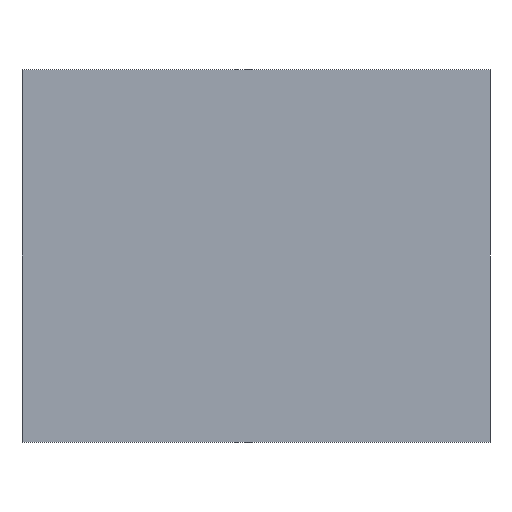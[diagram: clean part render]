
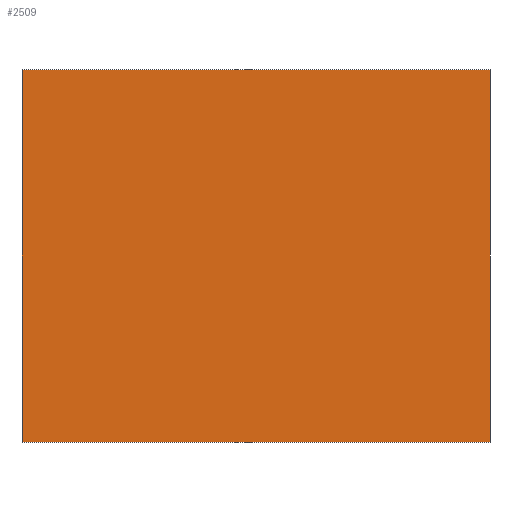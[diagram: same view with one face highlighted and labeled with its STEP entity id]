
A CAD part, front view. The second image highlights one B-rep face of the part: STEP entity #2509.
In plain terms, the highlighted planar face has unit normal (0, -1, 0).
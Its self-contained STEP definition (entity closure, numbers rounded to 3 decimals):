
#80 = CARTESIAN_POINT ( 'NONE',  ( 138.042, -39.587, -109.5 ) ) ;
#383 = DIRECTION ( 'NONE',  ( 0., 0., -1. ) ) ;
#433 = CARTESIAN_POINT ( 'NONE',  ( -138.042, -39.587, 110.499 ) ) ;
#707 = LINE ( 'NONE', #2864, #2778 ) ;
#778 = CARTESIAN_POINT ( 'NONE',  ( 138.042, -39.587, 110.499 ) ) ;
#798 = ORIENTED_EDGE ( 'NONE', *, *, #3544, .F. ) ;
#820 = CARTESIAN_POINT ( 'NONE',  ( -138.042, -39.587, -109.5 ) ) ;
#831 = VECTOR ( 'NONE', #3867, 1000. ) ;
#1058 = FACE_OUTER_BOUND ( 'NONE', #3948, .T. ) ;
#1156 = PLANE ( 'NONE',  #2087 ) ;
#1208 = DIRECTION ( 'NONE',  ( -1., 0., 0. ) ) ;
#1368 = VECTOR ( 'NONE', #4247, 1000. ) ;
#1486 = LINE ( 'NONE', #3846, #1368 ) ;
#1567 = ORIENTED_EDGE ( 'NONE', *, *, #1576, .F. ) ;
#1576 = EDGE_CURVE ( 'NONE', #3668, #2616, #1842, .T. ) ;
#1842 = LINE ( 'NONE', #433, #831 ) ;
#1865 = EDGE_CURVE ( 'NONE', #4047, #3668, #4419, .T. ) ;
#2087 = AXIS2_PLACEMENT_3D ( 'NONE', #2322, #2706, #383 ) ;
#2111 = ORIENTED_EDGE ( 'NONE', *, *, #1865, .F. ) ;
#2147 = VECTOR ( 'NONE', #1208, 1000. ) ;
#2322 = CARTESIAN_POINT ( 'NONE',  ( 0., -39.587, 0. ) ) ;
#2509 = ADVANCED_FACE ( 'NONE', ( #1058 ), #1156, .T. ) ;
#2543 = VERTEX_POINT ( 'NONE', #778 ) ;
#2616 = VERTEX_POINT ( 'NONE', #3657 ) ;
#2706 = DIRECTION ( 'NONE',  ( 0., -1., 0. ) ) ;
#2778 = VECTOR ( 'NONE', #3652, 1000. ) ;
#2864 = CARTESIAN_POINT ( 'NONE',  ( -138.042, -39.587, 110.499 ) ) ;
#3272 = ORIENTED_EDGE ( 'NONE', *, *, #3333, .F. ) ;
#3333 = EDGE_CURVE ( 'NONE', #2616, #2543, #707, .T. ) ;
#3544 = EDGE_CURVE ( 'NONE', #2543, #4047, #1486, .T. ) ;
#3652 = DIRECTION ( 'NONE',  ( 1., 0., 0. ) ) ;
#3657 = CARTESIAN_POINT ( 'NONE',  ( -138.042, -39.587, 110.499 ) ) ;
#3668 = VERTEX_POINT ( 'NONE', #4318 ) ;
#3846 = CARTESIAN_POINT ( 'NONE',  ( 138.042, -39.587, 110.499 ) ) ;
#3867 = DIRECTION ( 'NONE',  ( 0., 0., 1. ) ) ;
#3948 = EDGE_LOOP ( 'NONE', ( #1567, #2111, #798, #3272 ) ) ;
#4047 = VERTEX_POINT ( 'NONE', #80 ) ;
#4247 = DIRECTION ( 'NONE',  ( 0., 0., -1. ) ) ;
#4318 = CARTESIAN_POINT ( 'NONE',  ( -138.042, -39.587, -109.5 ) ) ;
#4419 = LINE ( 'NONE', #820, #2147 ) ;
